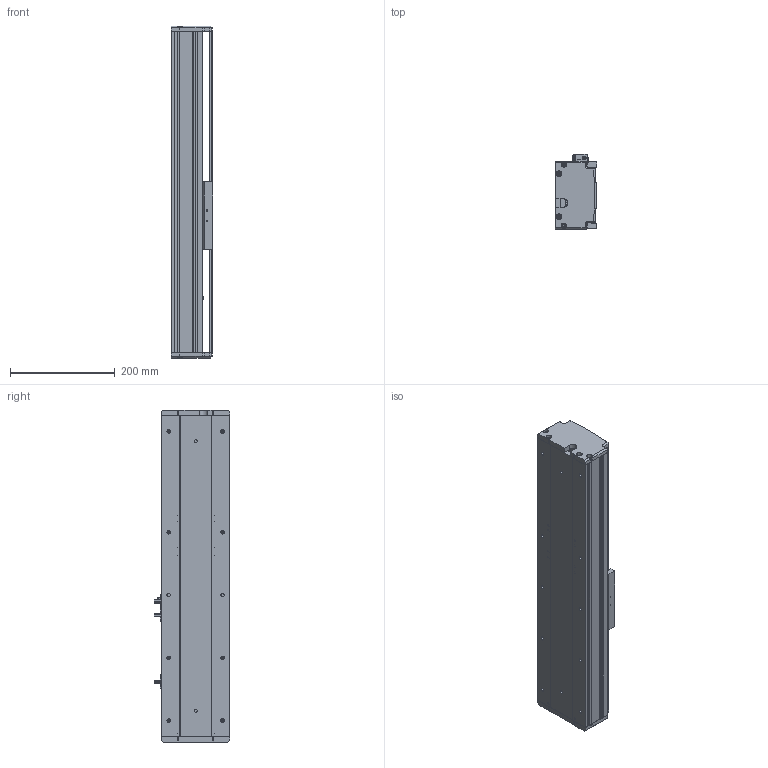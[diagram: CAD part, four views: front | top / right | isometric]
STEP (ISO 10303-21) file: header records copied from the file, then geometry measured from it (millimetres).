
FILE_DESCRIPTION (( 'STEP AP214' ), '1' );
FILE_NAME ('KSD130S-P2010-S150-M-CM.STEP', '2019-09-10T06:25:55', ( '微软用户' ), ( '微软中国' ), 'SwSTEP 2.0', 'SolidWorks 2014', '' );
FILE_SCHEMA (( 'AUTOMOTIVE_DESIGN' ));
Length unit declared in the file: millimetre
Products named in the file (8): 130宽马达安装板半封闭-内装; U倰嫖萇EEㄜSX672; 覜茼え100遵圉猾敕; 130宽盖板半封闭丝杠内装-150行程; 130宽滚珠丝杆安装板半封闭-内装-20丝杆; 130宽端盖半封闭-内装; 130宽底板半封闭丝杠内装-150行程; KSD130S-P2010-S150-M-CM
Assembly tree (9 placements, depth 2):
  KSD130S-P2010-S150-M-CM
    130宽底板半封闭丝杠内装-150行程
    130宽端盖半封闭-内装
    130宽滚珠丝杆安装板半封闭-内装-20丝杆
    130宽盖板半封闭丝杠内装-150行程
    覜茼え100遵圉猾敕
    U倰嫖萇EEㄜSX672  x3
    130宽马达安装板半封闭-内装
Bounding box: 80 x 143.7 x 635 mm (x, y, z)
Volume: 2115509.5 mm3; surface area: 637217.1 mm2
Topology: 9 solids, 9 shells, 963 faces, 2744 edges, 1758 vertices
Faces by surface type: plane 431, cylinder 414, cone 118
Entity records: 29638 total; most frequent: CARTESIAN_POINT 5487, DIRECTION 4342, ORIENTED_EDGE 4248, EDGE_CURVE 2124, AXIS2_PLACEMENT_3D 1557, VERTEX_POINT 1382, VECTOR 1228, LINE 1228
